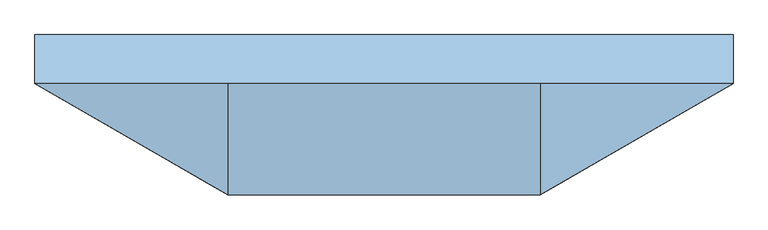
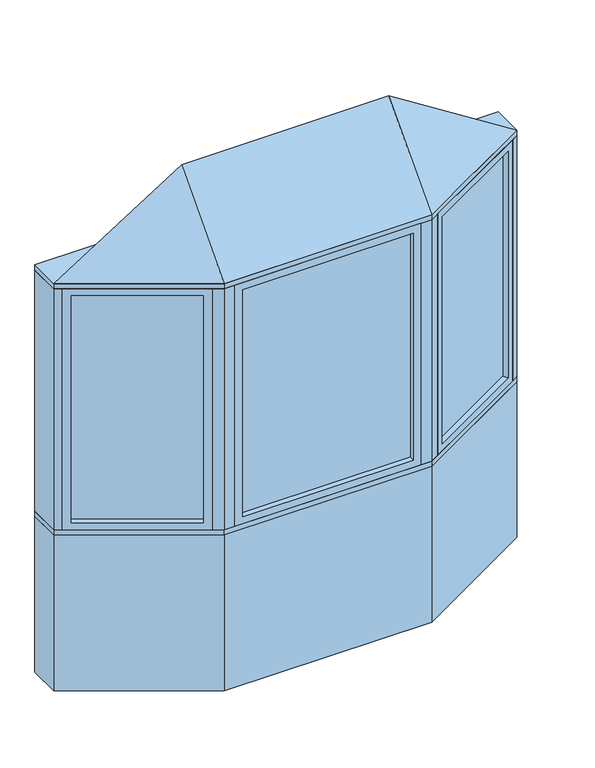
"""IFC4 building model written with IfcOpenShell, lengths in millimetres: window geometry, Pollard_Windows_Tudor Casement Bows and Bays : AML-BAY 30 AFR0512-12-600."""

from ifc_helpers import new_model, si_unit, frame, origin, origin_with_axes, place, context, project, spatial, polyline, outline, extrude, faceted_brep, source, transform, mapped, element, save


def window_684e526c(model_context):
    return source(origin(), model_context, "Body", "SolidModel", [
        extrude(outline(polyline([(1026.612102, -82.0482469), (538.3834764, -363.9271754), (535.8434764, -359.5277664), (1024.072102, -77.6488379), (1026.612102, -82.0482469)])), frame((0.0, 0.0, 823.1628), z_axis=(0.0, 0.0, 1.0), x_axis=(1.0, 0.0, 0.0)), (0.0, 0.0, 1.0), 1153.6704),
        faceted_brep([(1015.6135794, -88.3982469, 835.8628), (1028.3135794, -110.3952922, 835.8628), (1028.3135794, -110.3952922, 1964.1332), (1015.6135794, -88.3982469, 1964.1332), (1024.072102, -77.6488379, 823.1628), (1026.612102, -82.0482469, 823.1628), (1026.612102, -82.0482469, 1976.8332), (1024.072102, -77.6488379, 1976.8332), (1000.3735794, -62.0017926, 835.8628), (1013.0735794, -83.9988379, 835.8628), (1013.0735794, -83.9988379, 1964.1332), (1000.3735794, -62.0017926, 1964.1332), (1059.3734073, -92.4628922, 799.998), (1031.4334073, -44.0693926, 799.998), (1031.4334073, -44.0693926, 1999.998), (1059.3734073, -92.4628922, 1999.998), (562.081999, -379.5742207, 1964.1332), (549.381999, -357.5771754, 1964.1332), (538.3834764, -363.9271754, 1976.8332), (535.8434764, -359.5277664, 1976.8332), (546.841999, -353.1777664, 1964.1332), (534.141999, -331.1807211, 1964.1332), (503.0821711, -349.1131211, 1999.998), (531.0221711, -397.5066207, 1999.998), (562.081999, -379.5742207, 835.8628), (549.381999, -357.5771754, 835.8628), (538.3834764, -363.9271754, 823.1628), (535.8434764, -359.5277664, 823.1628), (546.841999, -353.1777664, 835.8628), (534.141999, -331.1807211, 835.8628), (503.0821711, -349.1131211, 799.998), (531.0221711, -397.5066207, 799.998)], [[[0, 1, 2, 3]], [[4, 5, 6, 7]], [[8, 9, 10, 11]], [[12, 13, 14, 15]], [[3, 2, 16, 17]], [[7, 6, 18, 19]], [[11, 10, 20, 21]], [[15, 14, 22, 23]], [[17, 16, 24, 25]], [[19, 18, 26, 27]], [[21, 20, 28, 29]], [[23, 22, 30, 31]], [[25, 24, 1, 0]], [[5, 26, 18, 6], [3, 17, 25, 0]], [[27, 26, 5, 4]], [[7, 19, 27, 4], [9, 28, 20, 10]], [[29, 28, 9, 8]], [[13, 30, 22, 14], [11, 21, 29, 8]], [[31, 30, 13, 12]], [[15, 23, 31, 12], [1, 24, 16, 2]]]),
        extrude(outline(polyline([(-538.3834764, -363.9271754), (-1026.612102, -82.0482469), (-1024.072102, -77.6488379), (-535.8434764, -359.5277664), (-538.3834764, -363.9271754)])), frame((0.0, 0.0, 823.1628), z_axis=(0.0, 0.0, 1.0), x_axis=(1.0, 0.0, 0.0)), (0.0, 0.0, 1.0), 1153.6704),
        faceted_brep([(-546.841999, -353.1777664, 1964.1332), (-534.141999, -331.1807211, 1964.1332), (-534.141999, -331.1807211, 835.8628), (-546.841999, -353.1777664, 835.8628), (-538.3834764, -363.9271754, 1976.8332), (-535.8434764, -359.5277664, 1976.8332), (-535.8434764, -359.5277664, 823.1628), (-538.3834764, -363.9271754, 823.1628), (-562.081999, -379.5742207, 1964.1332), (-549.381999, -357.5771754, 1964.1332), (-549.381999, -357.5771754, 835.8628), (-562.081999, -379.5742207, 835.8628), (-503.0821711, -349.1131211, 1999.998), (-531.0221711, -397.5066207, 1999.998), (-531.0221711, -397.5066207, 799.998), (-503.0821711, -349.1131211, 799.998), (-1000.3735794, -62.0017926, 835.8628), (-1013.0735794, -83.9988379, 835.8628), (-1024.072102, -77.6488379, 823.1628), (-1026.612102, -82.0482469, 823.1628), (-1015.6135794, -88.3982469, 835.8628), (-1028.3135794, -110.3952922, 835.8628), (-1059.3734073, -92.4628922, 799.998), (-1031.4334073, -44.0693926, 799.998), (-1000.3735794, -62.0017926, 1964.1332), (-1013.0735794, -83.9988379, 1964.1332), (-1024.072102, -77.6488379, 1976.8332), (-1026.612102, -82.0482469, 1976.8332), (-1015.6135794, -88.3982469, 1964.1332), (-1028.3135794, -110.3952922, 1964.1332), (-1059.3734073, -92.4628922, 1999.998), (-1031.4334073, -44.0693926, 1999.998)], [[[0, 1, 2, 3]], [[4, 5, 6, 7]], [[8, 9, 10, 11]], [[12, 13, 14, 15]], [[3, 2, 16, 17]], [[7, 6, 18, 19]], [[11, 10, 20, 21]], [[15, 14, 22, 23]], [[17, 16, 24, 25]], [[19, 18, 26, 27]], [[21, 20, 28, 29]], [[23, 22, 30, 31]], [[15, 23, 31, 12], [1, 24, 16, 2]], [[25, 24, 1, 0]], [[5, 26, 18, 6], [3, 17, 25, 0]], [[27, 26, 5, 4]], [[7, 19, 27, 4], [9, 28, 20, 10]], [[29, 28, 9, 8]], [[13, 30, 22, 14], [11, 21, 29, 8]], [[31, 30, 13, 12]]]),
        extrude(outline(polyline([(414.5561009, -397.1066207), (-414.5561009, -397.1066207), (-414.5561009, -392.0266207), (414.5561009, -392.0266207), (414.5561009, -397.1066207)])), frame((0.0, 0.0, 823.1628), z_axis=(0.0, 0.0, 1.0), x_axis=(1.0, 0.0, 0.0)), (0.0, 0.0, 1.0), 1153.6704),
        faceted_brep([(401.8561009, -397.1066207, 835.8628), (401.8561009, -422.5066207, 835.8628), (401.8561009, -422.5066207, 1964.1332), (401.8561009, -397.1066207, 1964.1332), (414.5561009, -392.0266207, 823.1628), (414.5561009, -397.1066207, 823.1628), (414.5561009, -397.1066207, 1976.8332), (414.5561009, -392.0266207, 1976.8332), (401.8561009, -366.6266207, 835.8628), (401.8561009, -392.0266207, 835.8628), (401.8561009, -392.0266207, 1964.1332), (401.8561009, -366.6266207, 1964.1332), (437.7209009, -422.5066207, 799.998), (437.7209009, -366.6266207, 799.998), (437.7209009, -366.6266207, 1999.998), (437.7209009, -422.5066207, 1999.998), (-401.8561009, -422.5066207, 1964.1332), (-401.8561009, -397.1066207, 1964.1332), (-414.5561009, -397.1066207, 1976.8332), (-414.5561009, -392.0266207, 1976.8332), (-401.8561009, -392.0266207, 1964.1332), (-401.8561009, -366.6266207, 1964.1332), (-437.7209009, -366.6266207, 1999.998), (-437.7209009, -422.5066207, 1999.998), (-401.8561009, -422.5066207, 835.8628), (-401.8561009, -397.1066207, 835.8628), (-414.5561009, -397.1066207, 823.1628), (-414.5561009, -392.0266207, 823.1628), (-401.8561009, -392.0266207, 835.8628), (-401.8561009, -366.6266207, 835.8628), (-437.7209009, -366.6266207, 799.998), (-437.7209009, -422.5066207, 799.998)], [[[0, 1, 2, 3]], [[4, 5, 6, 7]], [[8, 9, 10, 11]], [[12, 13, 14, 15]], [[3, 2, 16, 17]], [[7, 6, 18, 19]], [[11, 10, 20, 21]], [[15, 14, 22, 23]], [[17, 16, 24, 25]], [[19, 18, 26, 27]], [[21, 20, 28, 29]], [[23, 22, 30, 31]], [[15, 23, 31, 12], [1, 24, 16, 2]], [[25, 24, 1, 0]], [[5, 26, 18, 6], [3, 17, 25, 0]], [[27, 26, 5, 4]], [[7, 19, 27, 4], [9, 28, 20, 10]], [[29, 28, 9, 8]], [[13, 30, 22, 14], [11, 21, 29, 8]], [[31, 30, 13, 12]]]),
        faceted_brep([(1090.0, -74.7806207, 2025.398), (487.7209009, -422.5066207, 2025.398), (-487.7209009, -422.5066207, 2025.398), (-1090.0, -74.7806207, 2025.398), (-487.7209009, -74.7806207, 2406.398), (487.7209009, -74.7806207, 2406.398)], [[[0, 1, 2, 3]], [[3, 2, 4]], [[2, 1, 5, 4]], [[1, 0, 5]], [[0, 3, 4, 5]]]),
        extrude(outline(polyline([(-1090.0, 77.6193793), (1090.0, 77.6193793), (1090.0, -74.7806207), (487.7209009, -422.5066207), (-487.7209009, -422.5066207), (-1090.0, -74.7806207), (-1090.0, 77.6193793)])), frame((0.0, 0.0, 1999.998), z_axis=(0.0, 0.0, 1.0), x_axis=(1.0, 0.0, 0.0)), (0.0, 0.0, 1.0), 25.4),
        extrude(outline(polyline([(-1090.0, -74.7806207), (-1090.0, 77.6193793), (-1049.1645431, 77.6193793), (-1049.1645431, -74.7806207), (-1059.3734073, -92.4628922), (-1090.0, -74.7806207)])), frame((0.0, 0.0, 799.998), z_axis=(0.0, 0.0, 1.0), x_axis=(1.0, 0.0, 0.0)), (0.0, 0.0, 1.0), 1200.0),
        extrude(outline(polyline([(1090.0, 77.6193793), (1090.0, -74.7806207), (1059.3734073, -92.4628922), (1049.1645431, -74.7806207), (1049.1645431, 77.6193793), (1090.0, 77.6193793)])), frame((0.0, 0.0, 799.998), z_axis=(0.0, 0.0, 1.0), x_axis=(1.0, 0.0, 0.0)), (0.0, 0.0, 1.0), 1200.0),
        extrude(outline(polyline([(487.7209009, -422.5066207), (437.7209009, -422.5066207), (437.7209009, -372.5066207), (474.3234413, -372.5066207), (506.0221711, -354.2053505), (531.0221711, -397.5066207), (487.7209009, -422.5066207)])), frame((0.0, 0.0, 799.998), z_axis=(0.0, 0.0, 1.0), x_axis=(1.0, 0.0, 0.0)), (0.0, 0.0, 1.0), 1200.0),
        extrude(outline(polyline([(-487.7209009, -422.5066207), (-531.0221711, -397.5066207), (-506.0221711, -354.2053505), (-474.3234413, -372.5066207), (-437.7209009, -372.5066207), (-437.7209009, -422.5066207), (-487.7209009, -422.5066207)])), frame((0.0, 0.0, 799.998), z_axis=(0.0, 0.0, 1.0), x_axis=(1.0, 0.0, 0.0)), (0.0, 0.0, 1.0), 1200.0),
        extrude(outline(polyline([(-487.7209009, -422.5066207), (-1090.0, -74.7806207), (-1090.0, 77.6193793), (-1049.1645431, 77.6193793), (-446.885444, -270.1066207), (446.885444, -270.1066207), (1049.1645431, 77.6193793), (1090.0, 77.6193793), (1090.0, -74.7806207), (487.7209009, -422.5066207), (-487.7209009, -422.5066207)])), frame((0.0, 0.0, 774.598), z_axis=(0.0, 0.0, 1.0), x_axis=(1.0, 0.0, 0.0)), (0.0, 0.0, 1.0), 25.4),
        extrude(outline(polyline([(-1090.0, -74.7806207), (-1090.0, 77.6193793), (-1049.1645431, 77.6193793), (-446.885444, -270.1066207), (446.885444, -270.1066207), (1049.1645431, 77.6193793), (1090.0, 77.6193793), (1090.0, -74.7806207), (487.7209009, -422.5066207), (-487.7209009, -422.5066207), (-1090.0, -74.7806207)])), origin_with_axes(), (0.0, 0.0, 1.0), 774.598),
    ])


if __name__ == "__main__":
    model = new_model("IFC4")
    model_context = context("Model", 3, world=origin())
    ifc_project = project(units=[si_unit("LENGTHUNIT", "METRE", prefix="MILLI")], contexts=[model_context])
    site = spatial("IfcSite", under=ifc_project)
    building = spatial("IfcBuilding", under=site)
    placement = place(None, origin())
    window_shape = window_684e526c(model_context)
    element("IfcWindow", 1, ObjectType="Pollard_Windows_Tudor Casement Bows and Bays : AML-BAY 30 AFR0512-12-600", at=placement, inside=building, context=model_context, shape_type="MappedRepresentation", body=[
        mapped(window_shape, transform((0.0, 0.0, 0.0), x_axis=(1.0, 0.0, 0.0), y_axis=(0.0, 1.0, 0.0), z_axis=(0.0, 0.0, 1.0))),
    ])
    save(model, "model.ifc")
